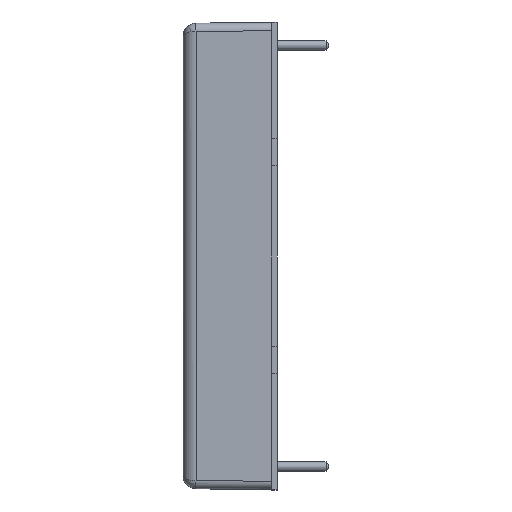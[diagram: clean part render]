
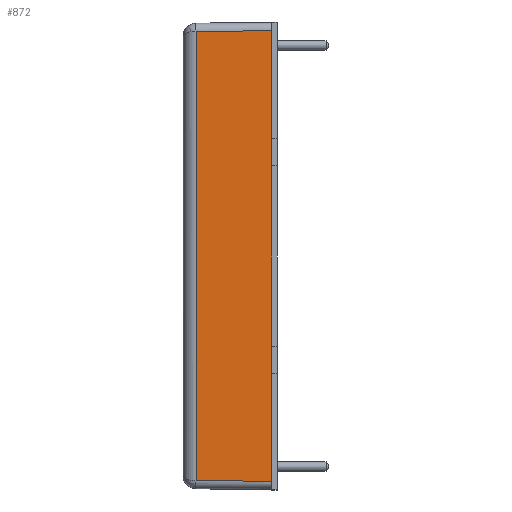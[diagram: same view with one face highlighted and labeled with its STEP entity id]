
A CAD part, left-side view. The second image highlights one B-rep face of the part: STEP entity #872.
In plain terms, the highlighted planar face has unit normal (-1, 0.009, 0).
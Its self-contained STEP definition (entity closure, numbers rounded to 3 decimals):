
#2 = VECTOR ( 'NONE', #577, 1000. ) ;
#21 = CARTESIAN_POINT ( 'NONE',  ( -25.35, 0.6, -12.8 ) ) ;
#80 = CARTESIAN_POINT ( 'NONE',  ( -25.35, 0.6, 25.35 ) ) ;
#135 = CARTESIAN_POINT ( 'NONE',  ( -25.35, 0.592, 24.45 ) ) ;
#136 = CARTESIAN_POINT ( 'NONE',  ( -25.35, 0.6, 25.35 ) ) ;
#148 = ORIENTED_EDGE ( 'NONE', *, *, #1679, .T. ) ;
#155 = CARTESIAN_POINT ( 'NONE',  ( -25.35, 0.6, 25.35 ) ) ;
#199 = VERTEX_POINT ( 'NONE', #722 ) ;
#219 = VECTOR ( 'NONE', #2335, 1000. ) ;
#335 = VECTOR ( 'NONE', #1036, 1000. ) ;
#370 = DIRECTION ( 'NONE',  ( -0.009, -1., 0. ) ) ;
#462 = LINE ( 'NONE', #155, #2797 ) ;
#542 = VECTOR ( 'NONE', #1244, 1000. ) ;
#577 = DIRECTION ( 'NONE',  ( 0.009, 1., -0.009 ) ) ;
#578 = DIRECTION ( 'NONE',  ( 0., 0., 1. ) ) ;
#599 = ORIENTED_EDGE ( 'NONE', *, *, #2793, .T. ) ;
#683 = LINE ( 'NONE', #1492, #542 ) ;
#705 = LINE ( 'NONE', #1598, #1236 ) ;
#707 = DIRECTION ( 'NONE',  ( 0., 0., 1. ) ) ;
#722 = CARTESIAN_POINT ( 'NONE',  ( -25.35, 0.6, -24.45 ) ) ;
#746 = VECTOR ( 'NONE', #786, 1000. ) ;
#786 = DIRECTION ( 'NONE',  ( 0., 0., -1. ) ) ;
#795 = ORIENTED_EDGE ( 'NONE', *, *, #1599, .T. ) ;
#796 = CARTESIAN_POINT ( 'NONE',  ( -25.35, 0.6, 9.8 ) ) ;
#816 = PLANE ( 'NONE',  #2895 ) ;
#817 = LINE ( 'NONE', #80, #219 ) ;
#872 = ADVANCED_FACE ( 'NONE', ( #2660 ), #816, .T. ) ;
#894 = VECTOR ( 'NONE', #2765, 1000. ) ;
#966 = EDGE_CURVE ( 'NONE', #2189, #1077, #2622, .T. ) ;
#999 = LINE ( 'NONE', #136, #335 ) ;
#1036 = DIRECTION ( 'NONE',  ( 0., 0., 1. ) ) ;
#1059 = VERTEX_POINT ( 'NONE', #2634 ) ;
#1077 = VERTEX_POINT ( 'NONE', #1911 ) ;
#1125 = EDGE_CURVE ( 'NONE', #2360, #199, #683, .T. ) ;
#1158 = EDGE_CURVE ( 'NONE', #199, #2189, #462, .T. ) ;
#1207 = LINE ( 'NONE', #135, #2 ) ;
#1236 = VECTOR ( 'NONE', #707, 1000. ) ;
#1240 = EDGE_CURVE ( 'NONE', #1513, #1932, #999, .T. ) ;
#1244 = DIRECTION ( 'NONE',  ( -0.009, -1., -0.009 ) ) ;
#1472 = ORIENTED_EDGE ( 'NONE', *, *, #1938, .T. ) ;
#1492 = CARTESIAN_POINT ( 'NONE',  ( -25.346, 1.035, -24.446 ) ) ;
#1513 = VERTEX_POINT ( 'NONE', #2888 ) ;
#1599 = EDGE_CURVE ( 'NONE', #1059, #2360, #1953, .T. ) ;
#1598 = CARTESIAN_POINT ( 'NONE',  ( -25.35, 0.6, 25.35 ) ) ;
#1679 = EDGE_CURVE ( 'NONE', #1932, #1059, #1207, .T. ) ;
#1781 = VERTEX_POINT ( 'NONE', #796 ) ;
#1911 = CARTESIAN_POINT ( 'NONE',  ( -25.35, 0.6, -9.8 ) ) ;
#1932 = VERTEX_POINT ( 'NONE', #2100 ) ;
#1938 = EDGE_CURVE ( 'NONE', #1077, #1781, #817, .T. ) ;
#1953 = LINE ( 'NONE', #2582, #746 ) ;
#2100 = CARTESIAN_POINT ( 'NONE',  ( -25.35, 0.6, 24.45 ) ) ;
#2157 = DIRECTION ( 'NONE',  ( -1., 0.009, 0. ) ) ;
#2189 = VERTEX_POINT ( 'NONE', #21 ) ;
#2220 = ORIENTED_EDGE ( 'NONE', *, *, #1125, .T. ) ;
#2315 = CARTESIAN_POINT ( 'NONE',  ( -25.35, 0.6, 25.35 ) ) ;
#2335 = DIRECTION ( 'NONE',  ( 0., 0., 1. ) ) ;
#2360 = VERTEX_POINT ( 'NONE', #2856 ) ;
#2402 = CARTESIAN_POINT ( 'NONE',  ( -25.35, 0.6, 25.35 ) ) ;
#2491 = ORIENTED_EDGE ( 'NONE', *, *, #1158, .T. ) ;
#2551 = ORIENTED_EDGE ( 'NONE', *, *, #966, .T. ) ;
#2582 = CARTESIAN_POINT ( 'NONE',  ( -25.278, 8.812, 25.35 ) ) ;
#2622 = LINE ( 'NONE', #2315, #894 ) ;
#2634 = CARTESIAN_POINT ( 'NONE',  ( -25.278, 8.812, 24.378 ) ) ;
#2660 = FACE_OUTER_BOUND ( 'NONE', #2702, .T. ) ;
#2702 = EDGE_LOOP ( 'NONE', ( #795, #2220, #2491, #2551, #1472, #599, #2717, #148 ) ) ;
#2717 = ORIENTED_EDGE ( 'NONE', *, *, #1240, .T. ) ;
#2765 = DIRECTION ( 'NONE',  ( 0., 0., 1. ) ) ;
#2793 = EDGE_CURVE ( 'NONE', #1781, #1513, #705, .T. ) ;
#2797 = VECTOR ( 'NONE', #578, 1000. ) ;
#2856 = CARTESIAN_POINT ( 'NONE',  ( -25.278, 8.812, -24.378 ) ) ;
#2888 = CARTESIAN_POINT ( 'NONE',  ( -25.35, 0.6, 12.8 ) ) ;
#2895 = AXIS2_PLACEMENT_3D ( 'NONE', #2402, #2157, #370 ) ;
